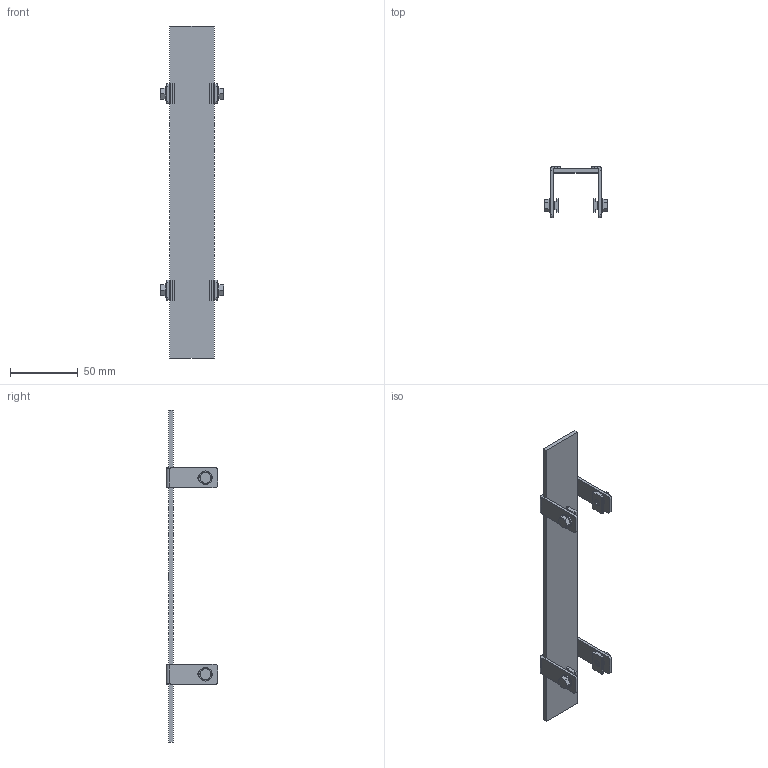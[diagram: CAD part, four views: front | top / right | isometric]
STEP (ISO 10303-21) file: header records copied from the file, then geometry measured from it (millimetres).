
FILE_DESCRIPTION((''),'2;1');
FILE_NAME('2011171_ASM','2012-09-05T',('rink'),(''),'PRO/ENGINEER BY PARAMETRIC TECHNOLOGY CORPORATION, 2011040','PRO/ENGINEER BY PARAMETRIC TECHNOLOGY CORPORATION, 2011040','');
FILE_SCHEMA(('AUTOMOTIVE_DESIGN_CC2 { 1 2 10303 214 -1 1 5 2 }'));
Length unit declared in the file: millimetre
Products named in the file (7): 2011170; 2011161; 2003292; 2011162; 2011167; 2011163_ASM; 2011171_ASM
Assembly tree (9 placements, depth 3):
  2011171_ASM
    2011170
    2011163_ASM  x4
      2011161
      2003292
      2011162
      2011167
Bounding box: 46.8 x 38 x 245 mm (x, y, z)
Volume: 31912.7 mm3; surface area: 27546.6 mm2
Topology: 17 solids, 21 shells, 373 faces, 945 edges, 650 vertices
Faces by surface type: plane 241, cylinder 84, cone 40, torus 8
Entity records: 5385 total; most frequent: CARTESIAN_POINT 751, DIRECTION 705, ORIENTED_EDGE 604, PRESENTATION_STYLE_ASSIGNMENT 366, STYLED_ITEM 335, CURVE_STYLE 329, EDGE_CURVE 304, VECTOR 237
